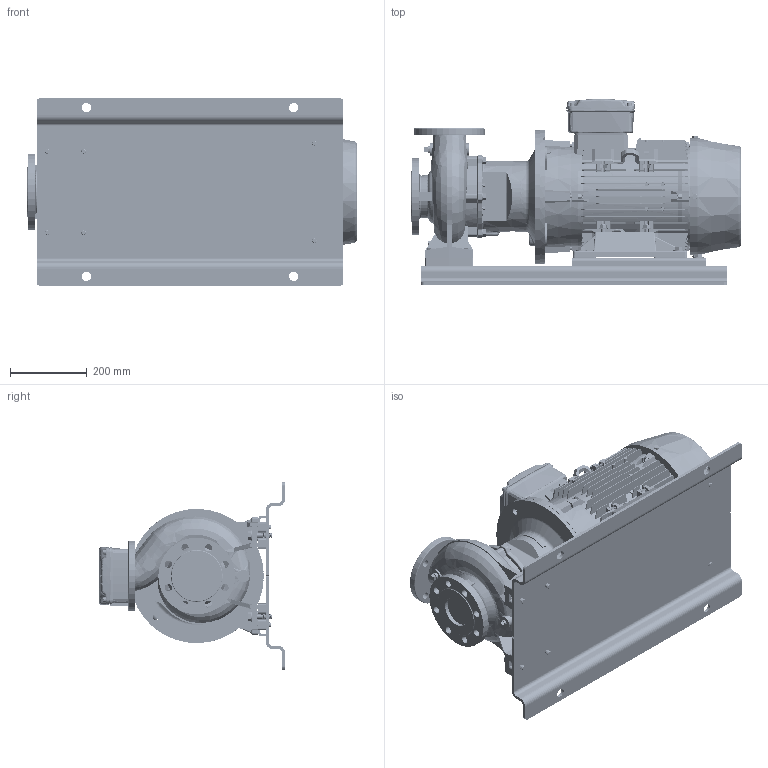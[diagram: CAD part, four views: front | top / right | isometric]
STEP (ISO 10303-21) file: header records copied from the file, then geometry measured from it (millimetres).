
FILE_DESCRIPTION (( 'STEP AP214' ), '1' );
FILE_NAME ('GSD2 65-125_11.0_(160ML)_W21_BP.STEP', '2024-07-30T06:16:36', ( '' ), ( '' ), 'SwSTEP 2.0', 'SolidWorks 2019', '' );
FILE_SCHEMA (( 'AUTOMOTIVE_DESIGN' ));
Length unit declared in the file: millimetre
Products named in the file (19): Parametric bolt and washer_SFT-A301B; 210_254 x 20 - 271472113; Parametric bolt_SFT-A309B; 160M_L_ALIE3_W21T_B35; Parametric bolt_SFT-A301B; Parametric bolt and washer_SFT-A309B; 65-125-160M_L_______; N5S3 GSDA-534 F1-1832925-00; Parametric Flat Washer_M12; GSD2  65-125_11.0_(160ML)_W21_BP; CGS11-5311_2_3_4_5_CGS11-5311
Assembly tree (37 placements, depth 3):
  GSD2  65-125_11.0_(160ML)_W21_BP
    65-125-160M_L_______
    N5S3 GSDA-534 F1-1832925-00
    CGS11-5311_2_3_4_5_CGS11-5311  x2
    210_254 x 20 - 271472113  x2
    Parametric bolt and washer_SFT-A309B
      Parametric bolt_SFT-A309B
      Parametric Flat Washer_M12
    Parametric bolt and washer_SFT-A309B
      Parametric bolt_SFT-A309B
      Parametric Flat Washer_M12
    Parametric bolt and washer_SFT-A309B
      Parametric bolt_SFT-A309B
      Parametric Flat Washer_M12
    Parametric bolt and washer_SFT-A309B
      Parametric bolt_SFT-A309B
      Parametric Flat Washer_M12
    Parametric bolt and washer_SFT-A301B
      Parametric bolt_SFT-A301B
      Parametric Flat Washer_M12
    Parametric bolt and washer_SFT-A301B
      Parametric bolt_SFT-A301B
      Parametric Flat Washer_M12
    Parametric bolt and washer_SFT-A301B
      Parametric bolt_SFT-A301B
      Parametric Flat Washer_M12
    Parametric bolt and washer_SFT-A301B
      Parametric bolt_SFT-A301B
      Parametric Flat Washer_M12
    Parametric bolt and washer_SFT-A301B
      Parametric bolt_SFT-A301B
      Parametric Flat Washer_M12
    Parametric bolt and washer_SFT-A301B
      Parametric bolt_SFT-A301B
      Parametric Flat Washer_M12
    160M_L_ALIE3_W21T_B35
Bounding box: 860.3 x 484.53 x 490 mm (x, y, z)
Volume: 47459878.3 mm3; surface area: 3773003.9 mm2
Topology: 55 solids, 61 shells, 6123 faces, 15864 edges, 10278 vertices
Faces by surface type: plane 3697, cylinder 1211, cone 532, bspline 434, torus 233, sphere 16
Entity records: 270306 total; most frequent: CARTESIAN_POINT 86733, ORIENTED_EDGE 28940, DIRECTION 24567, EDGE_CURVE 14470, VERTEX_POINT 9382, LINE 9323, VECTOR 9323, AXIS2_PLACEMENT_3D 7622
